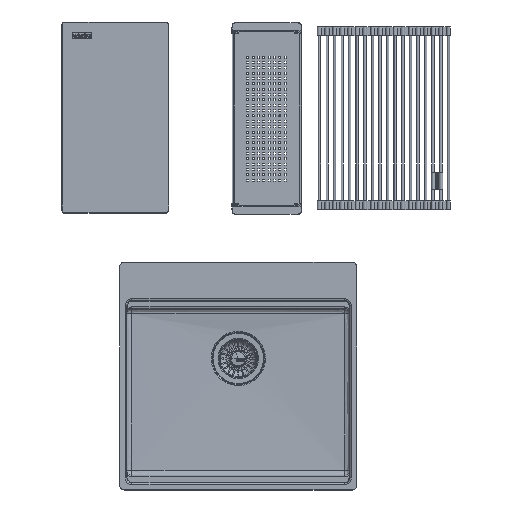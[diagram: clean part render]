
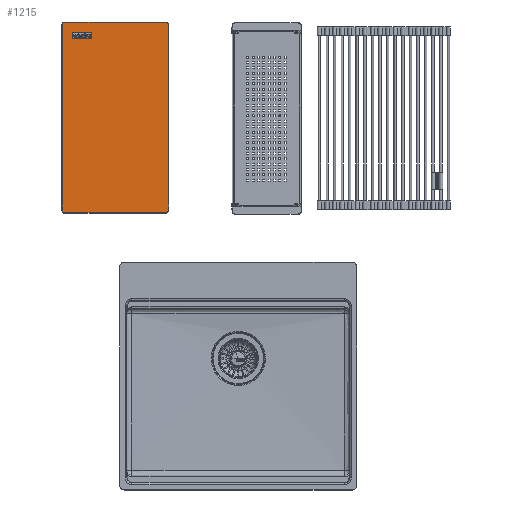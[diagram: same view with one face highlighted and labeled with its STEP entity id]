
A CAD part, top view. The second image highlights one B-rep face of the part: STEP entity #1215.
In plain terms, the highlighted planar face has unit normal (0, 0, 1).
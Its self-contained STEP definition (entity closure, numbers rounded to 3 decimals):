
#464=FACE_BOUND('',#10524,.T.);
#465=FACE_BOUND('',#10525,.T.);
#466=FACE_BOUND('',#10526,.T.);
#1215=ADVANCED_FACE('',(#5866,#464,#465,#466),#80682,.T.);
#5866=FACE_OUTER_BOUND('',#10523,.T.);
#10523=EDGE_LOOP('',(#16357,#16358,#16359,#16360,#16361,#16362,#16363,#16364));
#10524=EDGE_LOOP('',(#16365,#16366,#16367,#16368));
#10525=EDGE_LOOP('',(#16369,#16370,#16371,#16372));
#10526=EDGE_LOOP('',(#16373,#16374,#16375,#16376));
#16357=ORIENTED_EDGE('',*,*,#41855,.T.);
#16358=ORIENTED_EDGE('',*,*,#41811,.T.);
#16359=ORIENTED_EDGE('',*,*,#41870,.T.);
#16360=ORIENTED_EDGE('',*,*,#41812,.T.);
#16361=ORIENTED_EDGE('',*,*,#41866,.T.);
#16362=ORIENTED_EDGE('',*,*,#41813,.T.);
#16363=ORIENTED_EDGE('',*,*,#41860,.T.);
#16364=ORIENTED_EDGE('',*,*,#41814,.T.);
#16365=ORIENTED_EDGE('',*,*,#41500,.T.);
#16366=ORIENTED_EDGE('',*,*,#41496,.T.);
#16367=ORIENTED_EDGE('',*,*,#41506,.T.);
#16368=ORIENTED_EDGE('',*,*,#41503,.T.);
#16369=ORIENTED_EDGE('',*,*,#41632,.T.);
#16370=ORIENTED_EDGE('',*,*,#41628,.T.);
#16371=ORIENTED_EDGE('',*,*,#41638,.T.);
#16372=ORIENTED_EDGE('',*,*,#41635,.T.);
#16373=ORIENTED_EDGE('',*,*,#41785,.T.);
#16374=ORIENTED_EDGE('',*,*,#41781,.T.);
#16375=ORIENTED_EDGE('',*,*,#41791,.T.);
#16376=ORIENTED_EDGE('',*,*,#41788,.T.);
#41496=EDGE_CURVE('',#71604,#71605,#58715,.T.);
#41500=EDGE_CURVE('',#71608,#71604,#58719,.T.);
#41503=EDGE_CURVE('',#71610,#71608,#58722,.T.);
#41506=EDGE_CURVE('',#71605,#71610,#58725,.T.);
#41628=EDGE_CURVE('',#71692,#71693,#58847,.T.);
#41632=EDGE_CURVE('',#71696,#71692,#58851,.T.);
#41635=EDGE_CURVE('',#71698,#71696,#58854,.T.);
#41638=EDGE_CURVE('',#71693,#71698,#58857,.T.);
#41781=EDGE_CURVE('',#71794,#71795,#59000,.T.);
#41785=EDGE_CURVE('',#71798,#71794,#59004,.T.);
#41788=EDGE_CURVE('',#71800,#71798,#59007,.T.);
#41791=EDGE_CURVE('',#71795,#71800,#59010,.T.);
#41811=EDGE_CURVE('',#71815,#71816,#59024,.T.);
#41812=EDGE_CURVE('',#71817,#71818,#59025,.T.);
#41813=EDGE_CURVE('',#71819,#71820,#59026,.T.);
#41814=EDGE_CURVE('',#71821,#71814,#59027,.T.);
#41855=EDGE_CURVE('',#71814,#71815,#54343,.T.);
#41860=EDGE_CURVE('',#71820,#71821,#54347,.T.);
#41866=EDGE_CURVE('',#71818,#71819,#54353,.T.);
#41870=EDGE_CURVE('',#71816,#71817,#54356,.T.);
#54343=TRIMMED_CURVE($,#67118,(#109377),(#109378),.T.,.CARTESIAN.);
#54347=TRIMMED_CURVE($,#67122,(#109391),(#109392),.T.,.CARTESIAN.);
#54353=TRIMMED_CURVE($,#67128,(#109409),(#109410),.T.,.CARTESIAN.);
#54356=TRIMMED_CURVE($,#67131,(#109420),(#109421),.T.,.CARTESIAN.);
#58715=B_SPLINE_CURVE_WITH_KNOTS('',1,(#108629,#108630),.UNSPECIFIED.,.F.,
 .F.,(2,2),(-13.567,0.),.UNSPECIFIED.);
#58719=B_SPLINE_CURVE_WITH_KNOTS('',1,(#108637,#108638),.UNSPECIFIED.,.F.,
 .F.,(2,2),(-13.65,0.),.UNSPECIFIED.);
#58722=B_SPLINE_CURVE_WITH_KNOTS('',1,(#108643,#108644),.UNSPECIFIED.,.F.,
 .F.,(2,2),(-13.567,0.),.UNSPECIFIED.);
#58725=B_SPLINE_CURVE_WITH_KNOTS('',1,(#108649,#108650),.UNSPECIFIED.,.F.,
 .F.,(2,2),(-13.65,0.),.UNSPECIFIED.);
#58847=B_SPLINE_CURVE_WITH_KNOTS('',1,(#108893,#108894),.UNSPECIFIED.,.F.,
 .F.,(2,2),(-13.567,0.),.UNSPECIFIED.);
#58851=B_SPLINE_CURVE_WITH_KNOTS('',1,(#108901,#108902),.UNSPECIFIED.,.F.,
 .F.,(2,2),(-13.5,0.),.UNSPECIFIED.);
#58854=B_SPLINE_CURVE_WITH_KNOTS('',1,(#108907,#108908),.UNSPECIFIED.,.F.,
 .F.,(2,2),(-13.567,0.),.UNSPECIFIED.);
#58857=B_SPLINE_CURVE_WITH_KNOTS('',1,(#108913,#108914),.UNSPECIFIED.,.F.,
 .F.,(2,2),(-13.5,0.),.UNSPECIFIED.);
#59000=B_SPLINE_CURVE_WITH_KNOTS('',1,(#109199,#109200),.UNSPECIFIED.,.F.,
 .F.,(2,2),(-13.567,0.),.UNSPECIFIED.);
#59004=B_SPLINE_CURVE_WITH_KNOTS('',1,(#109207,#109208),.UNSPECIFIED.,.F.,
 .F.,(2,2),(-13.65,0.),.UNSPECIFIED.);
#59007=B_SPLINE_CURVE_WITH_KNOTS('',1,(#109213,#109214),.UNSPECIFIED.,.F.,
 .F.,(2,2),(-13.567,0.),.UNSPECIFIED.);
#59010=B_SPLINE_CURVE_WITH_KNOTS('',1,(#109219,#109220),.UNSPECIFIED.,.F.,
 .F.,(2,2),(-13.65,0.),.UNSPECIFIED.);
#59024=B_SPLINE_CURVE_WITH_KNOTS('',1,(#109265,#109266),.UNSPECIFIED.,.F.,
 .F.,(2,2),(0.,414.),.UNSPECIFIED.);
#59025=B_SPLINE_CURVE_WITH_KNOTS('',1,(#109267,#109268),.UNSPECIFIED.,.F.,
 .F.,(2,2),(0.,226.),.UNSPECIFIED.);
#59026=B_SPLINE_CURVE_WITH_KNOTS('',1,(#109269,#109270),.UNSPECIFIED.,.F.,
 .F.,(2,2),(0.,414.),.UNSPECIFIED.);
#59027=B_SPLINE_CURVE_WITH_KNOTS('',1,(#109271,#109272),.UNSPECIFIED.,.F.,
 .F.,(2,2),(0.,226.),.UNSPECIFIED.);
#67118=CIRCLE('',#85711,6.);
#67122=CIRCLE('',#85715,6.);
#67128=CIRCLE('',#85721,6.);
#67131=CIRCLE('',#85724,6.);
#71604=VERTEX_POINT('',#108093);
#71605=VERTEX_POINT('',#108094);
#71608=VERTEX_POINT('',#108097);
#71610=VERTEX_POINT('',#108099);
#71692=VERTEX_POINT('',#108181);
#71693=VERTEX_POINT('',#108182);
#71696=VERTEX_POINT('',#108185);
#71698=VERTEX_POINT('',#108187);
#71794=VERTEX_POINT('',#108283);
#71795=VERTEX_POINT('',#108284);
#71798=VERTEX_POINT('',#108287);
#71800=VERTEX_POINT('',#108289);
#71814=VERTEX_POINT('',#108303);
#71815=VERTEX_POINT('',#108304);
#71816=VERTEX_POINT('',#108305);
#71817=VERTEX_POINT('',#108306);
#71818=VERTEX_POINT('',#108307);
#71819=VERTEX_POINT('',#108308);
#71820=VERTEX_POINT('',#108309);
#71821=VERTEX_POINT('',#108310);
#80682=PLANE('',#85636);
#85636=AXIS2_PLACEMENT_3D('',#106997,#94081,$);
#85711=AXIS2_PLACEMENT_3D($,#109376,#94197,#94198);
#85715=AXIS2_PLACEMENT_3D($,#109390,#94205,#94206);
#85721=AXIS2_PLACEMENT_3D($,#109408,#94217,#94218);
#85724=AXIS2_PLACEMENT_3D($,#109419,#94223,#94224);
#94081=DIRECTION('',(0.,0.,1.));
#94197=DIRECTION('',(0.,0.,1.));
#94198=DIRECTION('',(0.,-1.,0.));
#94205=DIRECTION('',(0.,0.,1.));
#94206=DIRECTION('',(-1.,0.,0.));
#94217=DIRECTION('',(0.,0.,1.));
#94218=DIRECTION('',(0.,1.,0.));
#94223=DIRECTION('',(0.,0.,1.));
#94224=DIRECTION('',(1.,0.,0.));
#106997=CARTESIAN_POINT('',(-142.92,-255.72,0.));
#108093=CARTESIAN_POINT('',(-96.,176.433,0.));
#108094=CARTESIAN_POINT('',(-96.,190.,0.));
#108097=CARTESIAN_POINT('',(-82.35,176.433,0.));
#108099=CARTESIAN_POINT('',(-82.35,190.,0.));
#108181=CARTESIAN_POINT('',(-81.75,176.433,0.));
#108182=CARTESIAN_POINT('',(-81.75,190.,0.));
#108185=CARTESIAN_POINT('',(-68.25,176.433,0.));
#108187=CARTESIAN_POINT('',(-68.25,190.,0.));
#108283=CARTESIAN_POINT('',(-67.65,176.433,0.));
#108284=CARTESIAN_POINT('',(-67.65,190.,0.));
#108287=CARTESIAN_POINT('',(-54.,176.433,0.));
#108289=CARTESIAN_POINT('',(-54.,190.,0.));
#108303=CARTESIAN_POINT('',(113.,-213.,0.));
#108304=CARTESIAN_POINT('',(119.,-207.,0.));
#108305=CARTESIAN_POINT('',(119.,207.,0.));
#108306=CARTESIAN_POINT('',(113.,213.,0.));
#108307=CARTESIAN_POINT('',(-113.,213.,0.));
#108308=CARTESIAN_POINT('',(-119.,207.,0.));
#108309=CARTESIAN_POINT('',(-119.,-207.,0.));
#108310=CARTESIAN_POINT('',(-113.,-213.,0.));
#108629=CARTESIAN_POINT('',(-96.,176.433,0.));
#108630=CARTESIAN_POINT('',(-96.,190.,0.));
#108637=CARTESIAN_POINT('',(-82.35,176.433,0.));
#108638=CARTESIAN_POINT('',(-96.,176.433,0.));
#108643=CARTESIAN_POINT('',(-82.35,190.,0.));
#108644=CARTESIAN_POINT('',(-82.35,176.433,0.));
#108649=CARTESIAN_POINT('',(-96.,190.,0.));
#108650=CARTESIAN_POINT('',(-82.35,190.,0.));
#108893=CARTESIAN_POINT('',(-81.75,176.433,0.));
#108894=CARTESIAN_POINT('',(-81.75,190.,0.));
#108901=CARTESIAN_POINT('',(-68.25,176.433,0.));
#108902=CARTESIAN_POINT('',(-81.75,176.433,0.));
#108907=CARTESIAN_POINT('',(-68.25,190.,0.));
#108908=CARTESIAN_POINT('',(-68.25,176.433,0.));
#108913=CARTESIAN_POINT('',(-81.75,190.,0.));
#108914=CARTESIAN_POINT('',(-68.25,190.,0.));
#109199=CARTESIAN_POINT('',(-67.65,176.433,0.));
#109200=CARTESIAN_POINT('',(-67.65,190.,0.));
#109207=CARTESIAN_POINT('',(-54.,176.433,0.));
#109208=CARTESIAN_POINT('',(-67.65,176.433,0.));
#109213=CARTESIAN_POINT('',(-54.,190.,0.));
#109214=CARTESIAN_POINT('',(-54.,176.433,0.));
#109219=CARTESIAN_POINT('',(-67.65,190.,0.));
#109220=CARTESIAN_POINT('',(-54.,190.,0.));
#109265=CARTESIAN_POINT('',(119.,-207.,0.));
#109266=CARTESIAN_POINT('',(119.,207.,0.));
#109267=CARTESIAN_POINT('',(113.,213.,0.));
#109268=CARTESIAN_POINT('',(-113.,213.,0.));
#109269=CARTESIAN_POINT('',(-119.,207.,0.));
#109270=CARTESIAN_POINT('',(-119.,-207.,0.));
#109271=CARTESIAN_POINT('',(-113.,-213.,0.));
#109272=CARTESIAN_POINT('',(113.,-213.,0.));
#109376=CARTESIAN_POINT('',(113.,-207.,0.));
#109377=CARTESIAN_POINT('',(113.,-213.,0.));
#109378=CARTESIAN_POINT('',(119.,-207.,0.));
#109390=CARTESIAN_POINT('',(-113.,-207.,0.));
#109391=CARTESIAN_POINT('',(-119.,-207.,0.));
#109392=CARTESIAN_POINT('',(-113.,-213.,0.));
#109408=CARTESIAN_POINT('',(-113.,207.,0.));
#109409=CARTESIAN_POINT('',(-113.,213.,0.));
#109410=CARTESIAN_POINT('',(-119.,207.,0.));
#109419=CARTESIAN_POINT('',(113.,207.,0.));
#109420=CARTESIAN_POINT('',(119.,207.,0.));
#109421=CARTESIAN_POINT('',(113.,213.,0.));
